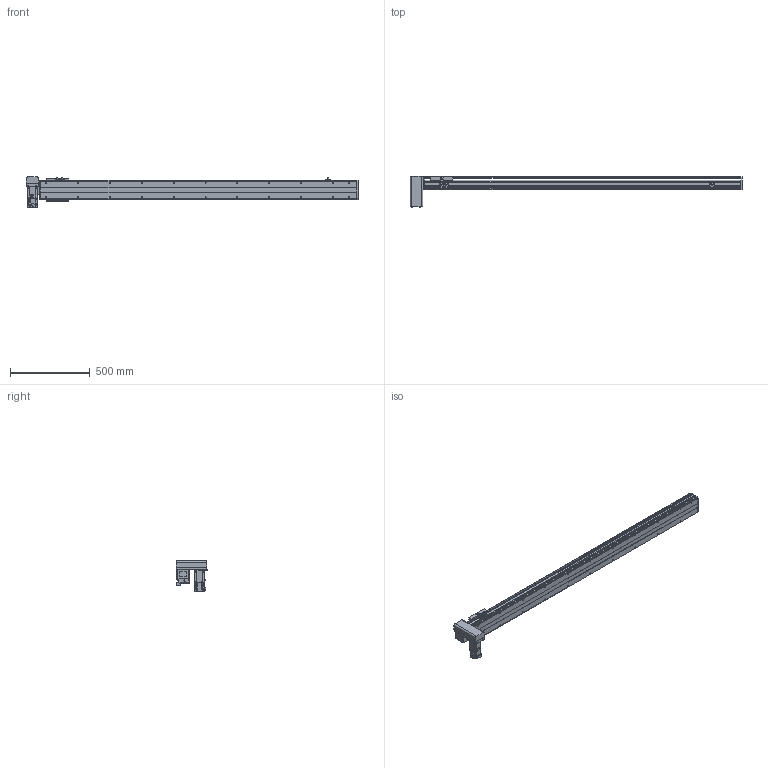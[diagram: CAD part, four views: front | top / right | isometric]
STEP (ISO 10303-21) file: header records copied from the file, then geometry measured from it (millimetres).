
FILE_DESCRIPTION( ( 'STEP AP214' ), '1' );
FILE_NAME( 'x:/temp/worker_27/temp/exporttempdir_6708_196_jvh3T/format_0/PBS120-P40-S1700-RD-T40-C1-N(0).stp', '2022-06-06T00:43:07', ( 'License CC BY-ND 4.0' ), ( 'CADENAS' ), ' ', 'PARTsolutions', ' ' );
FILE_SCHEMA( ( 'AUTOMOTIVE_DESIGN { 1 0 10303 214 1 1 1 1 }' ) );
Length unit declared in the file: millimetre
Products named in the file (7): PBS120-P40-S1700-RD-T40-C1-N(0); _PBS120-S1700()_body; _PBS120T-RD_motors; _T40-p1; _PBS120_sliser; _PBS120_plant; _PBS120_sensor
Assembly tree (8 placements, depth 2):
  PBS120-P40-S1700-RD-T40-C1-N(0)
    _PBS120-S1700()_body
    _PBS120T-RD_motors
    _T40-p1
    _PBS120_sliser
    _PBS120_plant
    _PBS120_sensor  x3
Bounding box: 2086 x 196 x 189.7 mm (x, y, z)
Volume: 8239656.5 mm3; surface area: 1666535 mm2
Topology: 8 solids, 8 shells, 846 faces, 2186 edges, 1405 vertices
Faces by surface type: plane 555, cylinder 235, cone 54, torus 2
Full cylindrical faces by diameter (mm): 2.459 x6, 3.242 x4, 4 x2, 4.134 x4, 4.5 x10, 4.917 x26, 5.5 x11, 6 x2, 6.6 x1, 7 x2, 8.5 x4, 9 x4, 12 x1, 14 x1, 30 x2, 40 x1, 50 x2
Entity records: 27828 total; most frequent: DIRECTION 3812, CARTESIAN_POINT 3731, ORIENTED_EDGE 3538, EDGE_CURVE 1769, AXIS2_PLACEMENT_3D 1292, LINE 1228, VECTOR 1228, VERTEX_POINT 1211
